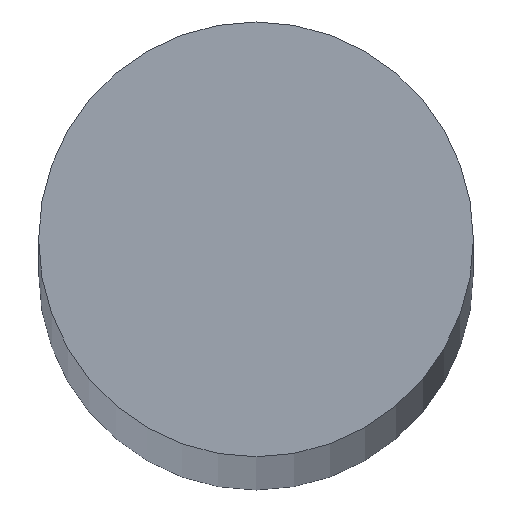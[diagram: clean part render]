
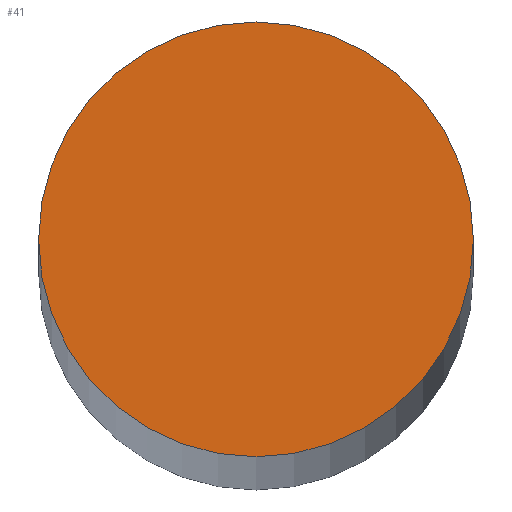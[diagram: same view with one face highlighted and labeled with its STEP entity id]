
A CAD part, top view. The second image highlights one B-rep face of the part: STEP entity #41.
In plain terms, the highlighted planar face has unit normal (0, 0, 1).
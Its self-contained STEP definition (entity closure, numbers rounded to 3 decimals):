
#16=PLANE('',#66);
#19=FACE_OUTER_BOUND('',#22,.T.);
#22=EDGE_LOOP('',(#37));
#25=CIRCLE('',#63,8.);
#27=VERTEX_POINT('',#82);
#29=EDGE_CURVE('',#27,#27,#25,.T.);
#37=ORIENTED_EDGE('',*,*,#29,.T.);
#41=ADVANCED_FACE('',(#19),#16,.T.);
#63=AXIS2_PLACEMENT_3D('',#83,#71,#72);
#66=AXIS2_PLACEMENT_3D('',#88,#78,#79);
#71=DIRECTION('center_axis',(0.,0.,1.));
#72=DIRECTION('ref_axis',(-1.,0.,0.));
#78=DIRECTION('center_axis',(0.,0.,1.));
#79=DIRECTION('ref_axis',(1.,0.,0.));
#82=CARTESIAN_POINT('',(8.,0.,700.));
#83=CARTESIAN_POINT('Origin',(0.,0.,700.));
#88=CARTESIAN_POINT('Origin',(0.,0.,
700.));
